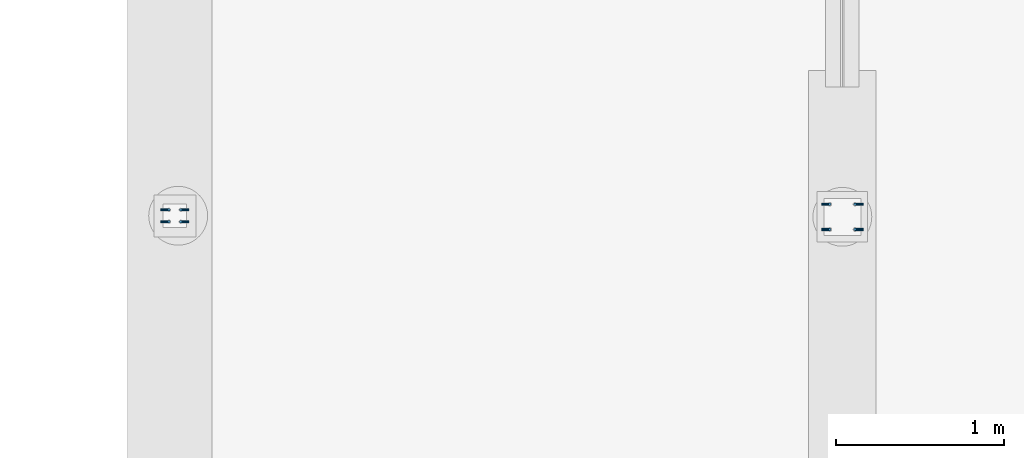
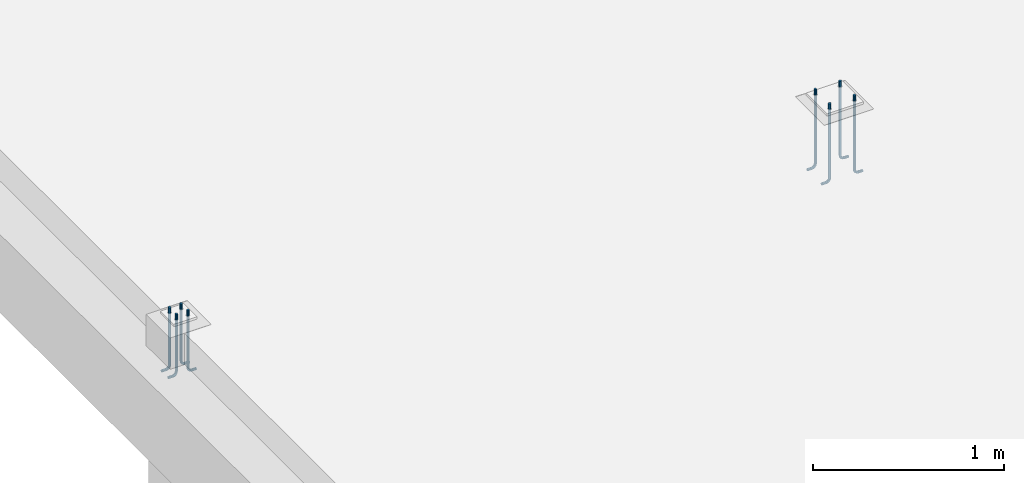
# One storey, part 16 of 22: 8 beams.
"""IFC2X3 building model written with IfcOpenShell, lengths in millimetres."""

from ifc_helpers import new_model, si_unit, frame, origin_with_axes, place, context, subcontext, project, spatial, faceted_brep, material, type_object, element, save


model = new_model("IFC2X3")

# Units and contexts
model_context = context("Model", 3, precision=1e-05, world=origin_with_axes())
body_context = subcontext(model_context, "Body", "Model", "MODEL_VIEW")
ifc_project = project(units=[si_unit("LENGTHUNIT", "METRE", prefix="MILLI"), si_unit("AREAUNIT", "SQUARE_METRE"), si_unit("VOLUMEUNIT", "CUBIC_METRE"), si_unit("MASSUNIT", "GRAM", prefix="KILO"), si_unit("TIMEUNIT", "SECOND"), si_unit("PLANEANGLEUNIT", "RADIAN"), si_unit("SOLIDANGLEUNIT", "STERADIAN"), si_unit("THERMODYNAMICTEMPERATUREUNIT", "DEGREE_CELSIUS"), si_unit("LUMINOUSINTENSITYUNIT", "LUMEN")], contexts=[model_context])

# Site, building, storey
site_placement = place(None, origin_with_axes())
site = spatial("IfcSite", under=ifc_project, at=site_placement, Name="Undefined", CompositionType="ELEMENT")
building_placement = place(site_placement, origin_with_axes())
building = spatial("IfcBuilding", under=site, at=building_placement, Name="Undefined", CompositionType="ELEMENT")
storey_placement = place(building_placement, origin_with_axes())
storey = spatial("IfcBuildingStorey", under=building, at=storey_placement, Name="Undefined", CompositionType="ELEMENT", Elevation=0.0)

# Beams
ifc_material = material(Name="STEEL/S235JR")
beam_type = type_object("IfcBeamType", Name="ANKER_M16", PredefinedType="NOTDEFINED")
beam_1_placement = place(storey_placement, frame((15431.7104288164, 7828.91806354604, 0.0), z_axis=(1.0, 0.0, 0.0), x_axis=(0.0, 0.0, -1.0)))
element("IfcBeam", 1, at=beam_1_placement, inside=storey, type_object=beam_type, material=ifc_material, Name="ANKER", context=body_context, shape_type="Brep", body=[
    faceted_brep([(0.0, -8.00000000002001, 7.27595761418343e-12), (0.0, -5.65685424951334, -5.65685424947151), (477.0, -5.65685424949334, -5.65685424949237), (477.0, -8.0, 0.0), (0.0, -9.09494701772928e-12, -7.99999999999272), (477.0, 0.0, -8.0), (0.0, 5.65685424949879, -5.65685424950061), (477.0, 5.65685424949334, -5.65685424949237), (0.0, 8.00000000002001, -3.63797880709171e-11), (477.0, 8.0, 0.0), (0.0, 5.65685424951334, 5.65685424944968), (477.0, 5.65685424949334, 5.65685424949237), (0.0, 5.45696821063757e-12, 7.99999999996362), (477.0, 0.0, 8.0), (0.0, -5.65685424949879, 5.65685424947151), (477.0, -5.65685424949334, 5.65685424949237), (488.863186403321, 0.0, 5.64026550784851), (487.966503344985, 5.65685424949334, 3.47548110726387), (485.801718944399, 8.0, -1.75077075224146), (483.636934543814, 5.65685424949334, -6.9770226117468), (482.740251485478, 0.0, -9.14180701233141), (483.636934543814, -5.65685424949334, -6.9770226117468), (485.801718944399, -8.0, -1.75077075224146), (487.966503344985, -5.65685424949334, 3.47548110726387), (497.263455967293, -5.65685424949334, -2.73654403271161), (498.920310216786, 0.0, -1.07968978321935), (493.263455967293, -8.0, -6.73654403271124), (489.263455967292, -5.65685424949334, -10.7365440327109), (487.606601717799, 0.0, -12.3933982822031), (489.263455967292, 5.65685424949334, -10.7365440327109), (493.263455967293, 8.0, -6.73654403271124), (497.263455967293, 5.65685424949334, -2.73654403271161), (503.475481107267, -5.65685424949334, -12.0334966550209), (505.640265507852, 0.0, -11.1368135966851), (498.249229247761, -8.0, -14.1982810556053), (493.022977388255, -5.65685424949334, -16.3630654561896), (490.85819298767, 0.0, -17.2597485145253), (493.022977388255, 5.65685424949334, -16.3630654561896), (498.249229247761, 8.0, -14.1982810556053), (503.475481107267, 5.65685424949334, -12.0334966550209), (505.656854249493, -5.65685424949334, -22.9999999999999), (508.000000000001, 0.0, -22.9999999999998), (500.0, -8.0, -23.0), (494.343145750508, -5.65685424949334, -23.0000000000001), (492.000000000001, 0.0, -23.0000000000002), (494.343145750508, 5.65685424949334, -23.0000000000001), (500.000000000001, 8.0, -23.0), (505.656854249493, 5.65685424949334, -22.9999999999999), (494.343145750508, -5.65685424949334, -50.0), (500.0, -8.0, -50.0), (492.0, 0.0, -50.0), (494.343145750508, 5.65685424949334, -50.0), (500.0, 8.0, -50.0), (505.656854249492, 5.65685424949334, -50.0), (508.0, 0.0, -50.0), (505.656854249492, -5.65685424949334, -50.0)], [[[0, 1, 2, 3]], [[1, 4, 5, 2]], [[4, 6, 7, 5]], [[6, 8, 9, 7]], [[8, 10, 11, 9]], [[10, 12, 13, 11]], [[12, 14, 15, 13]], [[14, 0, 3, 15]], [[14, 12, 10, 8, 6, 4, 1, 0]], [[11, 13, 16, 17]], [[9, 11, 17, 18]], [[7, 9, 18, 19]], [[5, 7, 19, 20]], [[2, 5, 20, 21]], [[3, 2, 21, 22]], [[15, 3, 22, 23]], [[13, 15, 23, 16]], [[23, 24, 25, 16]], [[22, 26, 24, 23]], [[21, 27, 26, 22]], [[20, 28, 27, 21]], [[19, 29, 28, 20]], [[18, 30, 29, 19]], [[17, 31, 30, 18]], [[16, 25, 31, 17]], [[24, 32, 33, 25]], [[26, 34, 32, 24]], [[27, 35, 34, 26]], [[28, 36, 35, 27]], [[29, 37, 36, 28]], [[30, 38, 37, 29]], [[31, 39, 38, 30]], [[25, 33, 39, 31]], [[32, 40, 41, 33]], [[34, 42, 40, 32]], [[35, 43, 42, 34]], [[36, 44, 43, 35]], [[37, 45, 44, 36]], [[38, 46, 45, 37]], [[39, 47, 46, 38]], [[33, 41, 47, 39]], [[42, 43, 48, 49]], [[43, 44, 50, 48]], [[44, 45, 51, 50]], [[45, 46, 52, 51]], [[46, 47, 53, 52]], [[47, 41, 54, 53]], [[41, 40, 55, 54]], [[40, 42, 49, 55]], [[50, 51, 52, 53, 54, 55, 49, 48]]]),
])
beam_2_placement = place(storey_placement, frame((15431.7104288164, 7678.91806354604, 0.0), z_axis=(1.0, 0.0, 0.0), x_axis=(0.0, 0.0, -1.0)))
element("IfcBeam", 2, at=beam_2_placement, inside=storey, type_object=beam_type, material=ifc_material, Name="ANKER", context=body_context, shape_type="Brep", body=[
    faceted_brep([(0.0, -8.00000000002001, 7.27595761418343e-12), (0.0, -5.65685424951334, -5.65685424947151), (477.0, -5.65685424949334, -5.65685424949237), (477.0, -8.0, 0.0), (0.0, -9.09494701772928e-12, -7.99999999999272), (477.0, 0.0, -8.0), (0.0, 5.65685424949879, -5.65685424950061), (477.0, 5.65685424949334, -5.65685424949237), (0.0, 8.00000000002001, -3.63797880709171e-11), (477.0, 8.0, 0.0), (0.0, 5.65685424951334, 5.65685424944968), (477.0, 5.65685424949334, 5.65685424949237), (0.0, 5.45696821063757e-12, 7.99999999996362), (477.0, 0.0, 8.0), (0.0, -5.65685424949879, 5.65685424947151), (477.0, -5.65685424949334, 5.65685424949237), (488.863186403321, 0.0, 5.64026550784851), (487.966503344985, 5.65685424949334, 3.47548110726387), (485.801718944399, 8.0, -1.75077075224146), (483.636934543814, 5.65685424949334, -6.9770226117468), (482.740251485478, 0.0, -9.14180701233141), (483.636934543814, -5.65685424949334, -6.9770226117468), (485.801718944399, -8.0, -1.75077075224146), (487.966503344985, -5.65685424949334, 3.47548110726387), (497.263455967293, -5.65685424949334, -2.73654403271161), (498.920310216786, 0.0, -1.07968978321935), (493.263455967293, -8.0, -6.73654403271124), (489.263455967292, -5.65685424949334, -10.7365440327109), (487.606601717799, 0.0, -12.3933982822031), (489.263455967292, 5.65685424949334, -10.7365440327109), (493.263455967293, 8.0, -6.73654403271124), (497.263455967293, 5.65685424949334, -2.73654403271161), (503.475481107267, -5.65685424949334, -12.0334966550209), (505.640265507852, 0.0, -11.1368135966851), (498.249229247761, -8.0, -14.1982810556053), (493.022977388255, -5.65685424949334, -16.3630654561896), (490.85819298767, 0.0, -17.2597485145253), (493.022977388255, 5.65685424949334, -16.3630654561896), (498.249229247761, 8.0, -14.1982810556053), (503.475481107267, 5.65685424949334, -12.0334966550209), (505.656854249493, -5.65685424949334, -22.9999999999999), (508.000000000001, 0.0, -22.9999999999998), (500.0, -8.0, -23.0), (494.343145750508, -5.65685424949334, -23.0000000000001), (492.000000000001, 0.0, -23.0000000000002), (494.343145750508, 5.65685424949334, -23.0000000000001), (500.000000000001, 8.0, -23.0), (505.656854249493, 5.65685424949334, -22.9999999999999), (494.343145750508, -5.65685424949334, -50.0), (500.0, -8.0, -50.0), (492.0, 0.0, -50.0), (494.343145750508, 5.65685424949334, -50.0), (500.0, 8.0, -50.0), (505.656854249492, 5.65685424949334, -50.0), (508.0, 0.0, -50.0), (505.656854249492, -5.65685424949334, -50.0)], [[[0, 1, 2, 3]], [[1, 4, 5, 2]], [[4, 6, 7, 5]], [[6, 8, 9, 7]], [[8, 10, 11, 9]], [[10, 12, 13, 11]], [[12, 14, 15, 13]], [[14, 0, 3, 15]], [[14, 12, 10, 8, 6, 4, 1, 0]], [[11, 13, 16, 17]], [[9, 11, 17, 18]], [[7, 9, 18, 19]], [[5, 7, 19, 20]], [[2, 5, 20, 21]], [[3, 2, 21, 22]], [[15, 3, 22, 23]], [[13, 15, 23, 16]], [[23, 24, 25, 16]], [[22, 26, 24, 23]], [[21, 27, 26, 22]], [[20, 28, 27, 21]], [[19, 29, 28, 20]], [[18, 30, 29, 19]], [[17, 31, 30, 18]], [[16, 25, 31, 17]], [[24, 32, 33, 25]], [[26, 34, 32, 24]], [[27, 35, 34, 26]], [[28, 36, 35, 27]], [[29, 37, 36, 28]], [[30, 38, 37, 29]], [[31, 39, 38, 30]], [[25, 33, 39, 31]], [[32, 40, 41, 33]], [[34, 42, 40, 32]], [[35, 43, 42, 34]], [[36, 44, 43, 35]], [[37, 45, 44, 36]], [[38, 46, 45, 37]], [[39, 47, 46, 38]], [[33, 41, 47, 39]], [[42, 43, 48, 49]], [[43, 44, 50, 48]], [[44, 45, 51, 50]], [[45, 46, 52, 51]], [[46, 47, 53, 52]], [[47, 41, 54, 53]], [[41, 40, 55, 54]], [[40, 42, 49, 55]], [[50, 51, 52, 53, 54, 55, 49, 48]]]),
])
beam_3_placement = place(storey_placement, frame((15581.7104288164, 7828.91806354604, 0.0), z_axis=(1.0, 0.0, 0.0), x_axis=(0.0, 0.0, -1.0)))
element("IfcBeam", 3, at=beam_3_placement, inside=storey, type_object=beam_type, material=ifc_material, Name="ANKER", context=body_context, shape_type="Brep", body=[
    faceted_brep([(0.0, -8.00000000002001, 7.27595761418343e-12), (0.0, -5.65685424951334, -5.65685424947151), (477.0, -5.65685424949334, -5.65685424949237), (477.0, -8.0, 0.0), (0.0, -9.09494701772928e-12, -7.99999999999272), (477.0, 0.0, -8.0), (0.0, 5.65685424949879, -5.65685424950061), (477.0, 5.65685424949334, -5.65685424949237), (0.0, 8.00000000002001, -3.63797880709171e-11), (477.0, 8.0, 0.0), (0.0, 5.65685424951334, 5.65685424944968), (477.0, 5.65685424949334, 5.65685424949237), (0.0, 5.45696821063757e-12, 7.99999999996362), (477.0, 0.0, 8.0), (0.0, -5.65685424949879, 5.65685424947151), (477.0, -5.65685424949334, 5.65685424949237), (488.863186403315, 0.0, -5.64026550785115), (487.966503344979, -5.65685424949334, -3.47548110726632), (485.801718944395, -8.0, 1.75077075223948), (483.636934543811, -5.65685424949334, 6.97702261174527), (482.740251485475, 0.0, 9.14180701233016), (483.636934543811, 5.65685424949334, 6.97702261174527), (485.801718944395, 8.0, 1.75077075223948), (487.966503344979, 5.65685424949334, -3.47548110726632), (497.263455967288, 5.65685424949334, 2.73654403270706), (498.920310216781, 0.0, 1.07968978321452), (493.263455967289, 8.0, 6.73654403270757), (489.263455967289, 5.65685424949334, 10.7365440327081), (487.606601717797, 0.0, 12.3933982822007), (489.263455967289, -5.65685424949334, 10.7365440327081), (493.263455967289, -8.0, 6.73654403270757), (497.263455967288, -5.65685424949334, 2.73654403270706), (503.475481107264, 5.65685424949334, 12.033496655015), (505.640265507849, 0.0, 11.1368135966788), (498.249229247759, 8.0, 14.1982810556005), (493.022977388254, 5.65685424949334, 16.363065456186), (490.858192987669, 0.0, 17.2597485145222), (493.022977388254, -5.65685424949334, 16.363065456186), (498.249229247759, -8.0, 14.1982810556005), (503.475481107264, -5.65685424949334, 12.033496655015), (505.656854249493, 5.65685424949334, 22.9999999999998), (508.000000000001, 0.0, 22.9999999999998), (500.000000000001, 8.0, 23.0), (494.343145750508, 5.65685424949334, 23.0000000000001), (492.000000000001, 0.0, 23.0000000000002), (494.343145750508, -5.65685424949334, 23.0000000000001), (500.0, -8.0, 23.0), (505.656854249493, -5.65685424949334, 22.9999999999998), (505.656854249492, -5.65685424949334, 50.0), (500.0, -8.0, 50.0), (508.0, 0.0, 50.0), (505.656854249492, 5.65685424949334, 50.0), (500.0, 8.0, 50.0), (494.343145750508, 5.65685424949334, 50.0), (492.0, 0.0, 50.0), (494.343145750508, -5.65685424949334, 50.0)], [[[0, 1, 2, 3]], [[1, 4, 5, 2]], [[4, 6, 7, 5]], [[6, 8, 9, 7]], [[8, 10, 11, 9]], [[10, 12, 13, 11]], [[12, 14, 15, 13]], [[14, 0, 3, 15]], [[14, 12, 10, 8, 6, 4, 1, 0]], [[2, 5, 16, 17]], [[3, 2, 17, 18]], [[15, 3, 18, 19]], [[13, 15, 19, 20]], [[11, 13, 20, 21]], [[9, 11, 21, 22]], [[7, 9, 22, 23]], [[5, 7, 23, 16]], [[23, 24, 25, 16]], [[22, 26, 24, 23]], [[21, 27, 26, 22]], [[20, 28, 27, 21]], [[19, 29, 28, 20]], [[18, 30, 29, 19]], [[17, 31, 30, 18]], [[16, 25, 31, 17]], [[24, 32, 33, 25]], [[26, 34, 32, 24]], [[27, 35, 34, 26]], [[28, 36, 35, 27]], [[29, 37, 36, 28]], [[30, 38, 37, 29]], [[31, 39, 38, 30]], [[25, 33, 39, 31]], [[32, 40, 41, 33]], [[34, 42, 40, 32]], [[35, 43, 42, 34]], [[36, 44, 43, 35]], [[37, 45, 44, 36]], [[38, 46, 45, 37]], [[39, 47, 46, 38]], [[33, 41, 47, 39]], [[46, 47, 48, 49]], [[47, 41, 50, 48]], [[41, 40, 51, 50]], [[40, 42, 52, 51]], [[42, 43, 53, 52]], [[43, 44, 54, 53]], [[44, 45, 55, 54]], [[45, 46, 49, 55]], [[50, 51, 52, 53, 54, 55, 49, 48]]]),
])
beam_4_placement = place(storey_placement, frame((15581.7104288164, 7678.91806354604, 0.0), z_axis=(-1.0, 0.0, 0.0), x_axis=(0.0, 0.0, -1.0)))
element("IfcBeam", 4, at=beam_4_placement, inside=storey, type_object=beam_type, material=ifc_material, Name="ANKER", context=body_context, shape_type="Brep", body=[
    faceted_brep([(0.0, -8.00000000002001, 7.27595761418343e-12), (0.0, -5.65685424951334, -5.65685424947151), (477.0, -5.65685424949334, -5.65685424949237), (477.0, -8.0, 0.0), (0.0, -9.09494701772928e-12, -7.99999999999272), (477.0, 0.0, -8.0), (0.0, 5.65685424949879, -5.65685424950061), (477.0, 5.65685424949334, -5.65685424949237), (0.0, 8.00000000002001, -3.63797880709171e-11), (477.0, 8.0, 0.0), (0.0, 5.65685424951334, 5.65685424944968), (477.0, 5.65685424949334, 5.65685424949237), (0.0, 5.45696821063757e-12, 7.99999999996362), (477.0, 0.0, 8.0), (0.0, -5.65685424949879, 5.65685424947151), (477.0, -5.65685424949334, 5.65685424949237), (488.863186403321, 0.0, 5.64026550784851), (487.966503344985, 5.65685424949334, 3.47548110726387), (485.801718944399, 8.0, -1.75077075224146), (483.636934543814, 5.65685424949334, -6.9770226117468), (482.740251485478, 0.0, -9.14180701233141), (483.636934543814, -5.65685424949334, -6.9770226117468), (485.801718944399, -8.0, -1.75077075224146), (487.966503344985, -5.65685424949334, 3.47548110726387), (497.263455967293, -5.65685424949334, -2.73654403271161), (498.920310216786, 0.0, -1.07968978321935), (493.263455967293, -8.0, -6.73654403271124), (489.263455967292, -5.65685424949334, -10.7365440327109), (487.606601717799, 0.0, -12.3933982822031), (489.263455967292, 5.65685424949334, -10.7365440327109), (493.263455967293, 8.0, -6.73654403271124), (497.263455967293, 5.65685424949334, -2.73654403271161), (503.475481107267, -5.65685424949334, -12.0334966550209), (505.640265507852, 0.0, -11.1368135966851), (498.249229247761, -8.0, -14.1982810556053), (493.022977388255, -5.65685424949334, -16.3630654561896), (490.85819298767, 0.0, -17.2597485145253), (493.022977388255, 5.65685424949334, -16.3630654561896), (498.249229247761, 8.0, -14.1982810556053), (503.475481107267, 5.65685424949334, -12.0334966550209), (505.656854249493, -5.65685424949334, -22.9999999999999), (508.000000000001, 0.0, -22.9999999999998), (500.0, -8.0, -23.0), (494.343145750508, -5.65685424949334, -23.0000000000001), (492.000000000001, 0.0, -23.0000000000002), (494.343145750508, 5.65685424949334, -23.0000000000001), (500.000000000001, 8.0, -23.0), (505.656854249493, 5.65685424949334, -22.9999999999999), (494.343145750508, -5.65685424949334, -50.0), (500.0, -8.0, -50.0), (492.0, 0.0, -50.0), (494.343145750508, 5.65685424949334, -50.0), (500.0, 8.0, -50.0), (505.656854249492, 5.65685424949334, -50.0), (508.0, 0.0, -50.0), (505.656854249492, -5.65685424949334, -50.0)], [[[0, 1, 2, 3]], [[1, 4, 5, 2]], [[4, 6, 7, 5]], [[6, 8, 9, 7]], [[8, 10, 11, 9]], [[10, 12, 13, 11]], [[12, 14, 15, 13]], [[14, 0, 3, 15]], [[14, 12, 10, 8, 6, 4, 1, 0]], [[11, 13, 16, 17]], [[9, 11, 17, 18]], [[7, 9, 18, 19]], [[5, 7, 19, 20]], [[2, 5, 20, 21]], [[3, 2, 21, 22]], [[15, 3, 22, 23]], [[13, 15, 23, 16]], [[23, 24, 25, 16]], [[22, 26, 24, 23]], [[21, 27, 26, 22]], [[20, 28, 27, 21]], [[19, 29, 28, 20]], [[18, 30, 29, 19]], [[17, 31, 30, 18]], [[16, 25, 31, 17]], [[24, 32, 33, 25]], [[26, 34, 32, 24]], [[27, 35, 34, 26]], [[28, 36, 35, 27]], [[29, 37, 36, 28]], [[30, 38, 37, 29]], [[31, 39, 38, 30]], [[25, 33, 39, 31]], [[32, 40, 41, 33]], [[34, 42, 40, 32]], [[35, 43, 42, 34]], [[36, 44, 43, 35]], [[37, 45, 44, 36]], [[38, 46, 45, 37]], [[39, 47, 46, 38]], [[33, 41, 47, 39]], [[42, 43, 48, 49]], [[43, 44, 50, 48]], [[44, 45, 51, 50]], [[45, 46, 52, 51]], [[46, 47, 53, 52]], [[47, 41, 54, 53]], [[41, 40, 55, 54]], [[40, 42, 49, 55]], [[50, 51, 52, 53, 54, 55, 49, 48]]]),
])
beam_5_placement = place(storey_placement, frame((11507.0104288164, 7794.91806354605, 0.0), z_axis=(1.0, 0.0, 0.0), x_axis=(0.0, 0.0, -1.0)))
element("IfcBeam", 5, at=beam_5_placement, inside=storey, type_object=beam_type, material=ifc_material, Name="ANKER", context=body_context, shape_type="Brep", body=[
    faceted_brep([(0.0, -8.00000000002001, 7.27595761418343e-12), (0.0, -5.65685424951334, -5.65685424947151), (369.0, -5.65685424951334, -5.65685424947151), (369.0, -8.00000000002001, 7.27595761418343e-12), (0.0, -9.09494701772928e-12, -7.99999999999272), (369.0, -9.09494701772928e-12, -7.99999999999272), (0.0, 5.65685424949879, -5.65685424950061), (369.0, 5.65685424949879, -5.65685424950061), (0.0, 8.00000000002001, -3.63797880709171e-11), (369.0, 8.00000000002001, -3.63797880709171e-11), (0.0, 5.65685424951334, 5.65685424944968), (369.0, 5.65685424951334, 5.65685424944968), (0.0, 5.45696821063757e-12, 7.99999999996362), (369.0, 5.45696821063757e-12, 7.99999999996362), (0.0, -5.65685424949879, 5.65685424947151), (369.0, -5.65685424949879, 5.65685424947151), (380.863186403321, 9.09494701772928e-12, 5.64026550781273), (379.966503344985, 5.65685424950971, 3.4754811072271), (377.8017189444, 8.00000000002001, -1.75077075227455), (375.636934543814, 5.65685424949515, -6.97702261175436), (374.740251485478, -9.09494701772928e-12, -9.14180701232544), (375.636934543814, -5.65685424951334, -6.97702261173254), (377.8017189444, -8.00000000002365, -1.75077075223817), (379.966503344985, -5.65685424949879, 3.4754811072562), (389.263455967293, -5.65685424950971, -2.73654403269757), (390.920310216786, -1.81898940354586e-12, -1.07968978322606), (385.263455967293, -8.00000000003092, -6.73654403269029), (381.263455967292, -5.65685424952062, -10.736544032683), (379.6066017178, -9.09494701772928e-12, -12.3933982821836), (381.263455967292, 5.65685424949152, -10.7365440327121), (385.263455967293, 8.00000000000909, -6.73654403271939), (389.263455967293, 5.65685424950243, -2.73654403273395), (395.475481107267, -5.65685424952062, -12.0334966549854), (397.640265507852, -1.2732925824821e-11, -11.1368135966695), (390.249229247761, -8.00000000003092, -14.1982810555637), (385.022977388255, -5.65685424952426, -16.3630654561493), (382.85819298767, -1.63709046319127e-11, -17.2597485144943), (385.022977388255, 5.65685424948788, -16.3630654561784), (390.249229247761, 8.00000000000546, -14.1982810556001), (395.475481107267, 5.65685424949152, -12.0334966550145), (397.656854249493, -5.65685424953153, -22.9999999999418), (400.000000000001, -2.36468622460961e-11, -22.9999999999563), (392.0, -8.00000000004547, -22.9999999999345), (386.343145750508, -5.65685424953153, -22.9999999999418), (384.000000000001, -2.36468622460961e-11, -22.9999999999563), (386.343145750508, 5.65685424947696, -22.9999999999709), (392.000000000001, 7.99999999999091, -22.9999999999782), (397.656854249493, 5.65685424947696, -22.9999999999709), (386.343145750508, -5.65685424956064, -49.9999999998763), (392.0, -8.00000000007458, -49.999999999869), (384.0, -5.63886715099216e-11, -49.9999999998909), (386.343145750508, 5.65685424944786, -49.9999999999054), (392.0, 7.9999999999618, -49.9999999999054), (397.656854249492, 5.65685424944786, -49.9999999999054), (400.0, -5.63886715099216e-11, -49.9999999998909), (397.656854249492, -5.65685424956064, -49.9999999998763)], [[[0, 1, 2, 3]], [[1, 4, 5, 2]], [[4, 6, 7, 5]], [[6, 8, 9, 7]], [[8, 10, 11, 9]], [[10, 12, 13, 11]], [[12, 14, 15, 13]], [[14, 0, 3, 15]], [[14, 12, 10, 8, 6, 4, 1, 0]], [[11, 13, 16, 17]], [[9, 11, 17, 18]], [[7, 9, 18, 19]], [[5, 7, 19, 20]], [[2, 5, 20, 21]], [[3, 2, 21, 22]], [[15, 3, 22, 23]], [[13, 15, 23, 16]], [[23, 24, 25, 16]], [[22, 26, 24, 23]], [[21, 27, 26, 22]], [[20, 28, 27, 21]], [[19, 29, 28, 20]], [[18, 30, 29, 19]], [[17, 31, 30, 18]], [[16, 25, 31, 17]], [[24, 32, 33, 25]], [[26, 34, 32, 24]], [[27, 35, 34, 26]], [[28, 36, 35, 27]], [[29, 37, 36, 28]], [[30, 38, 37, 29]], [[31, 39, 38, 30]], [[25, 33, 39, 31]], [[32, 40, 41, 33]], [[34, 42, 40, 32]], [[35, 43, 42, 34]], [[36, 44, 43, 35]], [[37, 45, 44, 36]], [[38, 46, 45, 37]], [[39, 47, 46, 38]], [[33, 41, 47, 39]], [[42, 43, 48, 49]], [[43, 44, 50, 48]], [[44, 45, 51, 50]], [[45, 46, 52, 51]], [[46, 47, 53, 52]], [[47, 41, 54, 53]], [[41, 40, 55, 54]], [[40, 42, 49, 55]], [[50, 51, 52, 53, 54, 55, 49, 48]]]),
])
beam_6_placement = place(storey_placement, frame((11507.0104288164, 7724.91806354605, 0.0), z_axis=(1.0, 0.0, 0.0), x_axis=(0.0, 0.0, -1.0)))
element("IfcBeam", 6, at=beam_6_placement, inside=storey, type_object=beam_type, material=ifc_material, Name="ANKER", context=body_context, shape_type="Brep", body=[
    faceted_brep([(0.0, -8.00000000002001, 7.27595761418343e-12), (0.0, -5.65685424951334, -5.65685424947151), (369.0, -5.65685424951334, -5.65685424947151), (369.0, -8.00000000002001, 7.27595761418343e-12), (0.0, -9.09494701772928e-12, -7.99999999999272), (369.0, -9.09494701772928e-12, -7.99999999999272), (0.0, 5.65685424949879, -5.65685424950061), (369.0, 5.65685424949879, -5.65685424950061), (0.0, 8.00000000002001, -3.63797880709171e-11), (369.0, 8.00000000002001, -3.63797880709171e-11), (0.0, 5.65685424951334, 5.65685424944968), (369.0, 5.65685424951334, 5.65685424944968), (0.0, 5.45696821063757e-12, 7.99999999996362), (369.0, 5.45696821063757e-12, 7.99999999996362), (0.0, -5.65685424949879, 5.65685424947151), (369.0, -5.65685424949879, 5.65685424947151), (380.863186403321, 9.09494701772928e-12, 5.64026550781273), (379.966503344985, 5.65685424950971, 3.4754811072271), (377.8017189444, 8.00000000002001, -1.75077075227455), (375.636934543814, 5.65685424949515, -6.97702261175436), (374.740251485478, -9.09494701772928e-12, -9.14180701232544), (375.636934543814, -5.65685424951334, -6.97702261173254), (377.8017189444, -8.00000000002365, -1.75077075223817), (379.966503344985, -5.65685424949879, 3.4754811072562), (389.263455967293, -5.65685424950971, -2.73654403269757), (390.920310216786, -1.81898940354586e-12, -1.07968978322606), (385.263455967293, -8.00000000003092, -6.73654403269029), (381.263455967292, -5.65685424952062, -10.736544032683), (379.6066017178, -9.09494701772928e-12, -12.3933982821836), (381.263455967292, 5.65685424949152, -10.7365440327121), (385.263455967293, 8.00000000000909, -6.73654403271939), (389.263455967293, 5.65685424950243, -2.73654403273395), (395.475481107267, -5.65685424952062, -12.0334966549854), (397.640265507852, -1.2732925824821e-11, -11.1368135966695), (390.249229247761, -8.00000000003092, -14.1982810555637), (385.022977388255, -5.65685424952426, -16.3630654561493), (382.85819298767, -1.63709046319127e-11, -17.2597485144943), (385.022977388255, 5.65685424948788, -16.3630654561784), (390.249229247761, 8.00000000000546, -14.1982810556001), (395.475481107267, 5.65685424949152, -12.0334966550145), (397.656854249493, -5.65685424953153, -22.9999999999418), (400.000000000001, -2.36468622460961e-11, -22.9999999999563), (392.0, -8.00000000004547, -22.9999999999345), (386.343145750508, -5.65685424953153, -22.9999999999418), (384.000000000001, -2.36468622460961e-11, -22.9999999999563), (386.343145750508, 5.65685424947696, -22.9999999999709), (392.000000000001, 7.99999999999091, -22.9999999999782), (397.656854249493, 5.65685424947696, -22.9999999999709), (386.343145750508, -5.65685424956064, -49.9999999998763), (392.0, -8.00000000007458, -49.999999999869), (384.0, -5.63886715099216e-11, -49.9999999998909), (386.343145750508, 5.65685424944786, -49.9999999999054), (392.0, 7.9999999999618, -49.9999999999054), (397.656854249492, 5.65685424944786, -49.9999999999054), (400.0, -5.63886715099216e-11, -49.9999999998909), (397.656854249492, -5.65685424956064, -49.9999999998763)], [[[0, 1, 2, 3]], [[1, 4, 5, 2]], [[4, 6, 7, 5]], [[6, 8, 9, 7]], [[8, 10, 11, 9]], [[10, 12, 13, 11]], [[12, 14, 15, 13]], [[14, 0, 3, 15]], [[14, 12, 10, 8, 6, 4, 1, 0]], [[11, 13, 16, 17]], [[9, 11, 17, 18]], [[7, 9, 18, 19]], [[5, 7, 19, 20]], [[2, 5, 20, 21]], [[3, 2, 21, 22]], [[15, 3, 22, 23]], [[13, 15, 23, 16]], [[23, 24, 25, 16]], [[22, 26, 24, 23]], [[21, 27, 26, 22]], [[20, 28, 27, 21]], [[19, 29, 28, 20]], [[18, 30, 29, 19]], [[17, 31, 30, 18]], [[16, 25, 31, 17]], [[24, 32, 33, 25]], [[26, 34, 32, 24]], [[27, 35, 34, 26]], [[28, 36, 35, 27]], [[29, 37, 36, 28]], [[30, 38, 37, 29]], [[31, 39, 38, 30]], [[25, 33, 39, 31]], [[32, 40, 41, 33]], [[34, 42, 40, 32]], [[35, 43, 42, 34]], [[36, 44, 43, 35]], [[37, 45, 44, 36]], [[38, 46, 45, 37]], [[39, 47, 46, 38]], [[33, 41, 47, 39]], [[42, 43, 48, 49]], [[43, 44, 50, 48]], [[44, 45, 51, 50]], [[45, 46, 52, 51]], [[46, 47, 53, 52]], [[47, 41, 54, 53]], [[41, 40, 55, 54]], [[40, 42, 49, 55]], [[50, 51, 52, 53, 54, 55, 49, 48]]]),
])
beam_7_placement = place(storey_placement, frame((11577.0104288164, 7794.91806354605, 0.0), z_axis=(1.0, 0.0, 0.0), x_axis=(0.0, 0.0, -1.0)))
element("IfcBeam", 7, at=beam_7_placement, inside=storey, type_object=beam_type, material=ifc_material, Name="ANKER", context=body_context, shape_type="Brep", body=[
    faceted_brep([(0.0, -8.00000000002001, 7.27595761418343e-12), (0.0, -5.65685424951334, -5.65685424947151), (369.0, -5.65685424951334, -5.65685424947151), (369.0, -8.00000000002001, 7.27595761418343e-12), (0.0, -9.09494701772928e-12, -7.99999999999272), (369.0, -9.09494701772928e-12, -7.99999999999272), (0.0, 5.65685424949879, -5.65685424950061), (369.0, 5.65685424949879, -5.65685424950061), (0.0, 8.00000000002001, -3.63797880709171e-11), (369.0, 8.00000000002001, -3.63797880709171e-11), (0.0, 5.65685424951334, 5.65685424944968), (369.0, 5.65685424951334, 5.65685424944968), (0.0, 5.45696821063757e-12, 7.99999999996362), (369.0, 5.45696821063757e-12, 7.99999999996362), (0.0, -5.65685424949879, 5.65685424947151), (369.0, -5.65685424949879, 5.65685424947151), (380.863186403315, -9.09494701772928e-12, -5.64026550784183), (379.966503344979, -5.65685424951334, -3.47548110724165), (377.801718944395, -8.00000000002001, 1.75077075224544), (375.636934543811, -5.65685424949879, 6.97702261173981), (374.740251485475, 1.2732925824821e-11, 9.14180701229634), (375.636934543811, 5.65685424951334, 6.97702261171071), (377.801718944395, 8.00000000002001, 1.75077075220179), (379.966503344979, 5.65685424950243, -3.47548110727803), (389.263455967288, 5.65685424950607, 2.73654403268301), (390.920310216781, -1.81898940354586e-12, 1.07968978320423), (385.263455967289, 8.00000000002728, 6.73654403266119), (381.263455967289, 5.65685424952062, 10.7365440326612), (379.606601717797, 1.2732925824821e-11, 12.3933982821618), (381.263455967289, -5.65685424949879, 10.736544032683), (385.263455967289, -8.00000000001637, 6.73654403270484), (389.263455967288, -5.65685424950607, 2.73654403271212), (395.475481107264, 5.65685424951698, 12.0334966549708), (397.640265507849, 1.2732925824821e-11, 11.1368135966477), (390.249229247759, 8.00000000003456, 14.1982810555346), (385.022977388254, 5.65685424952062, 16.3630654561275), (382.858192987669, 1.63709046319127e-11, 17.2597485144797), (385.022977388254, -5.65685424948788, 16.3630654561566), (390.249229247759, -8.00000000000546, 14.1982810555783), (395.475481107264, -5.65685424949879, 12.0334966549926), (397.656854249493, 5.65685424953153, 22.99999999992), (400.000000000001, 2.36468622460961e-11, 22.9999999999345), (392.000000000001, 8.00000000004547, 22.99999999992), (386.343145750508, 5.65685424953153, 22.99999999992), (384.000000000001, 2.36468622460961e-11, 22.9999999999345), (386.343145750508, -5.65685424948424, 22.9999999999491), (392.0, -7.99999999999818, 22.9999999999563), (397.656854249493, -5.65685424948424, 22.9999999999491), (397.656854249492, -5.6568542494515, 49.9999999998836), (392.0, -7.99999999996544, 49.9999999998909), (400.0, 5.27506927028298e-11, 49.999999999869), (397.656854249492, 5.65685424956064, 49.9999999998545), (392.0, 8.00000000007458, 49.9999999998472), (386.343145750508, 5.65685424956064, 49.9999999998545), (384.0, 5.27506927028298e-11, 49.999999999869), (386.343145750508, -5.6568542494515, 49.9999999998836)], [[[0, 1, 2, 3]], [[1, 4, 5, 2]], [[4, 6, 7, 5]], [[6, 8, 9, 7]], [[8, 10, 11, 9]], [[10, 12, 13, 11]], [[12, 14, 15, 13]], [[14, 0, 3, 15]], [[14, 12, 10, 8, 6, 4, 1, 0]], [[2, 5, 16, 17]], [[3, 2, 17, 18]], [[15, 3, 18, 19]], [[13, 15, 19, 20]], [[11, 13, 20, 21]], [[9, 11, 21, 22]], [[7, 9, 22, 23]], [[5, 7, 23, 16]], [[23, 24, 25, 16]], [[22, 26, 24, 23]], [[21, 27, 26, 22]], [[20, 28, 27, 21]], [[19, 29, 28, 20]], [[18, 30, 29, 19]], [[17, 31, 30, 18]], [[16, 25, 31, 17]], [[24, 32, 33, 25]], [[26, 34, 32, 24]], [[27, 35, 34, 26]], [[28, 36, 35, 27]], [[29, 37, 36, 28]], [[30, 38, 37, 29]], [[31, 39, 38, 30]], [[25, 33, 39, 31]], [[32, 40, 41, 33]], [[34, 42, 40, 32]], [[35, 43, 42, 34]], [[36, 44, 43, 35]], [[37, 45, 44, 36]], [[38, 46, 45, 37]], [[39, 47, 46, 38]], [[33, 41, 47, 39]], [[46, 47, 48, 49]], [[47, 41, 50, 48]], [[41, 40, 51, 50]], [[40, 42, 52, 51]], [[42, 43, 53, 52]], [[43, 44, 54, 53]], [[44, 45, 55, 54]], [[45, 46, 49, 55]], [[50, 51, 52, 53, 54, 55, 49, 48]]]),
])
beam_8_placement = place(storey_placement, frame((11577.0104288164, 7724.91806354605, 0.0), z_axis=(-1.0, 0.0, 0.0), x_axis=(0.0, 0.0, -1.0)))
element("IfcBeam", 8, at=beam_8_placement, inside=storey, type_object=beam_type, material=ifc_material, Name="ANKER", context=body_context, shape_type="Brep", body=[
    faceted_brep([(0.0, -8.00000000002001, 7.27595761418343e-12), (0.0, -5.65685424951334, -5.65685424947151), (369.0, -5.65685424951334, -5.65685424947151), (369.0, -8.00000000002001, 7.27595761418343e-12), (0.0, -9.09494701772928e-12, -7.99999999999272), (369.0, -9.09494701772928e-12, -7.99999999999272), (0.0, 5.65685424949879, -5.65685424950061), (369.0, 5.65685424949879, -5.65685424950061), (0.0, 8.00000000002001, -3.63797880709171e-11), (369.0, 8.00000000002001, -3.63797880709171e-11), (0.0, 5.65685424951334, 5.65685424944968), (369.0, 5.65685424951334, 5.65685424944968), (0.0, 5.45696821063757e-12, 7.99999999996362), (369.0, 5.45696821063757e-12, 7.99999999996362), (0.0, -5.65685424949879, 5.65685424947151), (369.0, -5.65685424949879, 5.65685424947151), (380.863186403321, 9.09494701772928e-12, 5.64026550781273), (379.966503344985, 5.65685424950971, 3.4754811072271), (377.8017189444, 8.00000000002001, -1.75077075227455), (375.636934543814, 5.65685424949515, -6.97702261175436), (374.740251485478, -9.09494701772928e-12, -9.14180701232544), (375.636934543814, -5.65685424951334, -6.97702261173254), (377.8017189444, -8.00000000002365, -1.75077075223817), (379.966503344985, -5.65685424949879, 3.4754811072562), (389.263455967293, -5.65685424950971, -2.73654403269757), (390.920310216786, -1.81898940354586e-12, -1.07968978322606), (385.263455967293, -8.00000000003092, -6.73654403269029), (381.263455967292, -5.65685424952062, -10.736544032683), (379.6066017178, -9.09494701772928e-12, -12.3933982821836), (381.263455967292, 5.65685424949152, -10.7365440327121), (385.263455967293, 8.00000000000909, -6.73654403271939), (389.263455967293, 5.65685424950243, -2.73654403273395), (395.475481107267, -5.65685424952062, -12.0334966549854), (397.640265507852, -1.2732925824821e-11, -11.1368135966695), (390.249229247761, -8.00000000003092, -14.1982810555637), (385.022977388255, -5.65685424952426, -16.3630654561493), (382.85819298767, -1.63709046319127e-11, -17.2597485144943), (385.022977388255, 5.65685424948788, -16.3630654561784), (390.249229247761, 8.00000000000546, -14.1982810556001), (395.475481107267, 5.65685424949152, -12.0334966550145), (397.656854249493, -5.65685424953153, -22.9999999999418), (400.000000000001, -2.36468622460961e-11, -22.9999999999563), (392.0, -8.00000000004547, -22.9999999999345), (386.343145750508, -5.65685424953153, -22.9999999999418), (384.000000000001, -2.36468622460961e-11, -22.9999999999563), (386.343145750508, 5.65685424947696, -22.9999999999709), (392.000000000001, 7.99999999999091, -22.9999999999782), (397.656854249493, 5.65685424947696, -22.9999999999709), (386.343145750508, -5.65685424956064, -49.9999999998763), (392.0, -8.00000000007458, -49.999999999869), (384.0, -5.63886715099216e-11, -49.9999999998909), (386.343145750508, 5.65685424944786, -49.9999999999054), (392.0, 7.9999999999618, -49.9999999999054), (397.656854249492, 5.65685424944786, -49.9999999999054), (400.0, -5.63886715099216e-11, -49.9999999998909), (397.656854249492, -5.65685424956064, -49.9999999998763)], [[[0, 1, 2, 3]], [[1, 4, 5, 2]], [[4, 6, 7, 5]], [[6, 8, 9, 7]], [[8, 10, 11, 9]], [[10, 12, 13, 11]], [[12, 14, 15, 13]], [[14, 0, 3, 15]], [[14, 12, 10, 8, 6, 4, 1, 0]], [[11, 13, 16, 17]], [[9, 11, 17, 18]], [[7, 9, 18, 19]], [[5, 7, 19, 20]], [[2, 5, 20, 21]], [[3, 2, 21, 22]], [[15, 3, 22, 23]], [[13, 15, 23, 16]], [[23, 24, 25, 16]], [[22, 26, 24, 23]], [[21, 27, 26, 22]], [[20, 28, 27, 21]], [[19, 29, 28, 20]], [[18, 30, 29, 19]], [[17, 31, 30, 18]], [[16, 25, 31, 17]], [[24, 32, 33, 25]], [[26, 34, 32, 24]], [[27, 35, 34, 26]], [[28, 36, 35, 27]], [[29, 37, 36, 28]], [[30, 38, 37, 29]], [[31, 39, 38, 30]], [[25, 33, 39, 31]], [[32, 40, 41, 33]], [[34, 42, 40, 32]], [[35, 43, 42, 34]], [[36, 44, 43, 35]], [[37, 45, 44, 36]], [[38, 46, 45, 37]], [[39, 47, 46, 38]], [[33, 41, 47, 39]], [[42, 43, 48, 49]], [[43, 44, 50, 48]], [[44, 45, 51, 50]], [[45, 46, 52, 51]], [[46, 47, 53, 52]], [[47, 41, 54, 53]], [[41, 40, 55, 54]], [[40, 42, 49, 55]], [[50, 51, 52, 53, 54, 55, 49, 48]]]),
])

save(model, "model.ifc")
